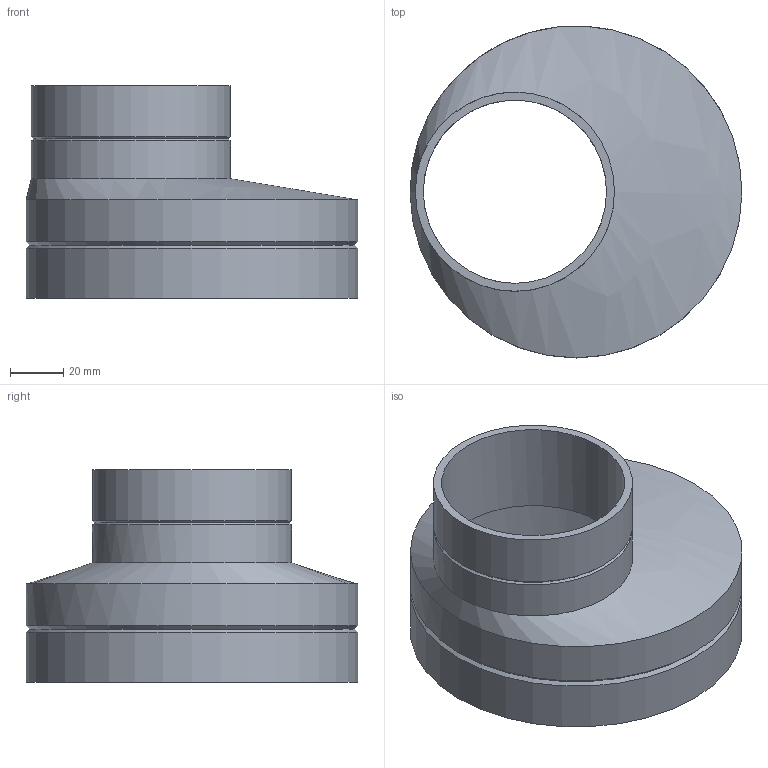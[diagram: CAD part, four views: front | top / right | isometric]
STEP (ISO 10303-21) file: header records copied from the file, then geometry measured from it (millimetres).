
FILE_DESCRIPTION(/* description */ (''),/* implementation_level */ '2;1');
FILE_NAME(/* name */ 'Z:\Geberit\Export\NewStep\368576.stp',/* time_stamp */ '2014-04-02T08:00:54+02:00',/* author */ ('nelson'),/* organization */ (''),/* preprocessor_version */ 'ST-DEVELOPER v15.2',/* originating_system */ 'Autodesk Inventor 2014',/* authorisation */ '');
FILE_SCHEMA (('AUTOMOTIVE_DESIGN { 1 0 10303 214 3 1 1 }'));
Length unit declared in the file: millimetre
Products named in the file (1): 368576
Bounding box: 125 x 125 x 80 mm (x, y, z)
Volume: 101168.6 mm3; surface area: 62760 mm2
Topology: 1 solids, 1 shells, 14 faces, 34 edges, 22 vertices
Faces by surface type: cylinder 6, cone 4, bspline 2, plane 2
Full cylindrical faces by diameter (mm): 69 x1, 75 x2, 115.2 x1, 125 x2
Entity records: 397 total; most frequent: CARTESIAN_POINT 89, DIRECTION 62, ORIENTED_EDGE 40, AXIS2_PLACEMENT_3D 31, EDGE_LOOP 26, EDGE_CURVE 20, CIRCLE 18, VERTEX_POINT 18
